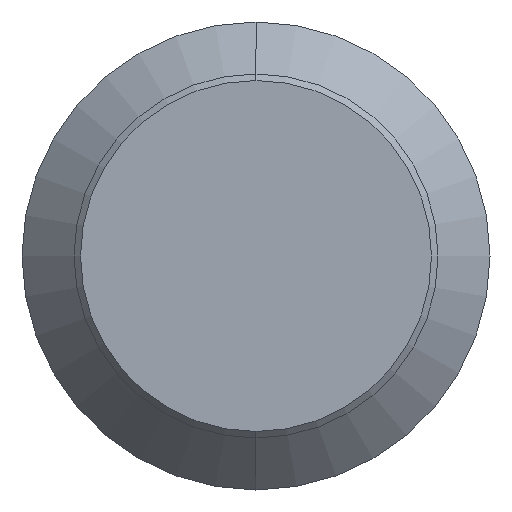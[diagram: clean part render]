
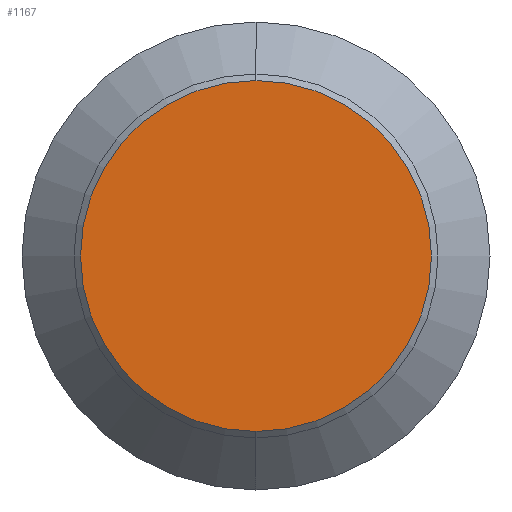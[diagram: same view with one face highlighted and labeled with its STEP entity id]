
A CAD part, left-side view. The second image highlights one B-rep face of the part: STEP entity #1167.
In plain terms, the highlighted planar face has unit normal (-1, 0, 0).
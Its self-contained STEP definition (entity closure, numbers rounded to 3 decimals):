
#32 = AXIS2_PLACEMENT_3D ( 'NONE', #1177, #516, #1288 ) ;
#41 = DIRECTION ( 'NONE',  ( -1., 0., 0. ) ) ;
#123 = DIRECTION ( 'NONE',  ( 0., 0., 1. ) ) ;
#143 = PLANE ( 'NONE',  #1081 ) ;
#154 = VERTEX_POINT ( 'NONE', #893 ) ;
#185 = CIRCLE ( 'NONE', #32, 13.5 ) ;
#265 = CARTESIAN_POINT ( 'NONE',  ( 0., 0., 0. ) ) ;
#360 = FACE_OUTER_BOUND ( 'NONE', #820, .T. ) ;
#383 = DIRECTION ( 'NONE',  ( 0., 0., -1. ) ) ;
#516 = DIRECTION ( 'NONE',  ( -1., 0., 0. ) ) ;
#558 = ORIENTED_EDGE ( 'NONE', *, *, #1188, .T. ) ;
#726 = CARTESIAN_POINT ( 'NONE',  ( 0., 0., 0. ) ) ;
#820 = EDGE_LOOP ( 'NONE', ( #558, #1147 ) ) ;
#842 = VERTEX_POINT ( 'NONE', #983 ) ;
#893 = CARTESIAN_POINT ( 'NONE',  ( 0., 0., 13.5 ) ) ;
#983 = CARTESIAN_POINT ( 'NONE',  ( 0., 0., -13.5 ) ) ;
#1058 = DIRECTION ( 'NONE',  ( 1., 0., 0. ) ) ;
#1081 = AXIS2_PLACEMENT_3D ( 'NONE', #265, #1058, #383 ) ;
#1147 = ORIENTED_EDGE ( 'NONE', *, *, #1341, .T. ) ;
#1149 = AXIS2_PLACEMENT_3D ( 'NONE', #726, #41, #123 ) ;
#1167 = ADVANCED_FACE ( 'NONE', ( #360 ), #143, .F. ) ;
#1177 = CARTESIAN_POINT ( 'NONE',  ( 0., 0., 0. ) ) ;
#1188 = EDGE_CURVE ( 'NONE', #842, #154, #1260, .T. ) ;
#1260 = CIRCLE ( 'NONE', #1149, 13.5 ) ;
#1288 = DIRECTION ( 'NONE',  ( 0., 0., 1. ) ) ;
#1341 = EDGE_CURVE ( 'NONE', #154, #842, #185, .T. ) ;
